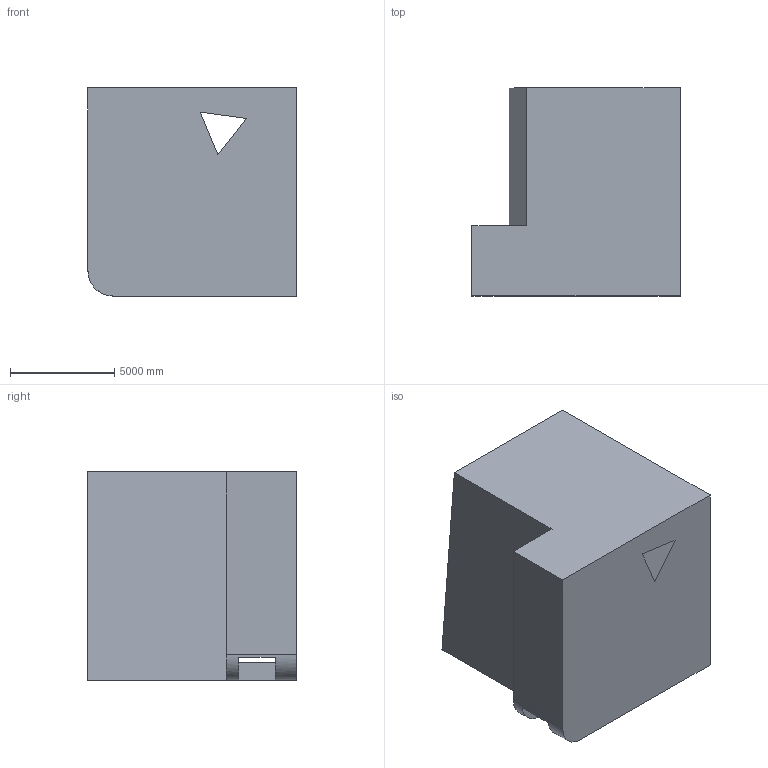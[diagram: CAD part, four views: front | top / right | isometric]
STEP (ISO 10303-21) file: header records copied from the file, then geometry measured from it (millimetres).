
FILE_DESCRIPTION (( 'STEP AP203' ), '1' );
FILE_NAME ('726.STEP', '2022-07-29T12:47:03', ( 'user' ), ( '' ), 'SwSTEP 2.0', 'SolidWorks 2021', '' );
FILE_SCHEMA (( 'CONFIG_CONTROL_DESIGN' ));
Length unit declared in the file: centimetre
Products named in the file (1): 726
Bounding box: 10000 x 10000 x 10000 mm (x, y, z)
Volume: 757704181823.6 mm3; surface area: 779915225.2 mm2
Topology: 1 solids, 1 shells, 37 faces, 108 edges, 72 vertices
Faces by surface type: plane 30, cylinder 7
Entity records: 1390 total; most frequent: CARTESIAN_POINT 297, ORIENTED_EDGE 216, DIRECTION 201, EDGE_CURVE 108, VECTOR 89, LINE 89, VERTEX_POINT 72, AXIS2_PLACEMENT_3D 56
